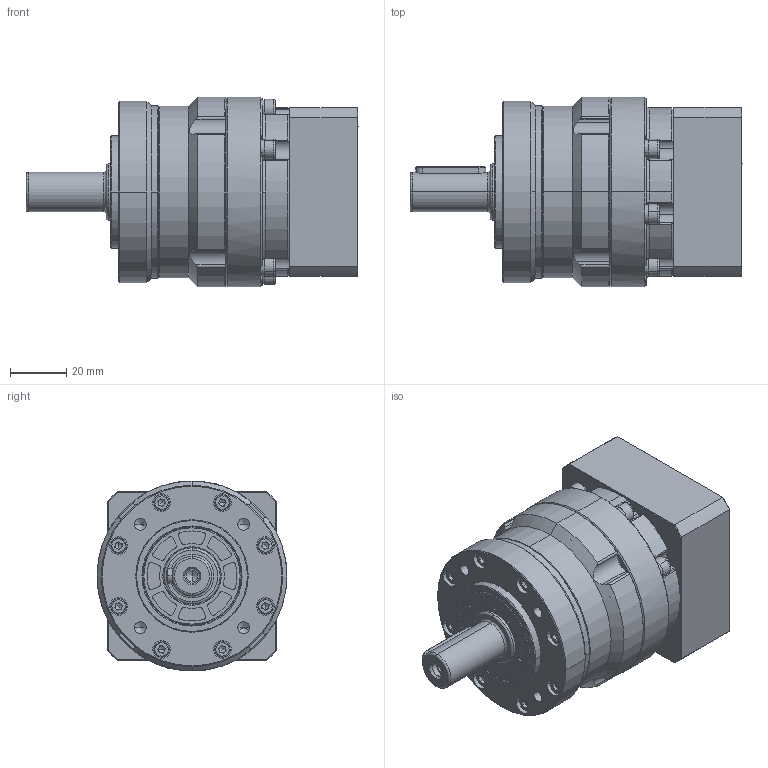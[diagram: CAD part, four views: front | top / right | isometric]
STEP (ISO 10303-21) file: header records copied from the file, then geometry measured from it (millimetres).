
FILE_DESCRIPTION (( 'STEP AP214' ), '1' );
FILE_NAME ('FE060-L1-S2-P2 14-50-70-M4.STEP', '2024-01-23T02:36:56', ( '微软用户' ), ( '微软中国' ), 'SwSTEP 2.0', 'SolidWorks 2018', '' );
FILE_SCHEMA (( 'AUTOMOTIVE_DESIGN' ));
Length unit declared in the file: millimetre
Products named in the file (16): hexagon socket head cap screws gb_GB_FASTENER_SCREWS_HSHCS M3X16-N; FE060一级齿圈外形图; hexagon socket head cap screws gb_GB_FASTENER_SCREWS_HSHCS M5X16-N; 萇儂楊擘FE060-D50-M5-70F60H24.5; FE060-L1-S2-P2 14-50-70-M4; spring lock washers--normal type gb_GB_FASTENER_WASHER_SW 3; hex socket set screws with flat point gb_GB_FASTENER_SCREWS_HSFP M10X8-N; FE060圆输出端盖外形图; 输入太阳轮FE060D14外形图; 一级输出轴FE060外形图; spring lock washers--normal type gb_GB_FASTENER_WASHER_SW 4; 蚐猾20X35X5; 標杶FE060D17; plain parallel keys_GB_CONNECTING_PIECE_KEYS_CSK 5X25; hexagon socket head cap screws gb_GB_FASTENER_SCREWS_HSHCS M4X20-N; FE060笢潔楊擘俋倛芞
Assembly tree (51 placements, depth 2):
  FE060-L1-S2-P2 14-50-70-M4
    FE060一级齿圈外形图
    一级输出轴FE060外形图
    输入太阳轮FE060D14外形图
    FE060笢潔楊擘俋倛芞
    萇儂楊擘FE060-D50-M5-70F60H24.5
    標杶FE060D17
    hexagon socket head cap screws gb_GB_FASTENER_SCREWS_HSHCS M5X16-N
    hexagon socket head cap screws gb_GB_FASTENER_SCREWS_HSHCS M4X20-N  x12
    spring lock washers--normal type gb_GB_FASTENER_WASHER_SW 4  x12
    hex socket set screws with flat point gb_GB_FASTENER_SCREWS_HSFP M10X8-N
    蚐猾20X35X5
    plain parallel keys_GB_CONNECTING_PIECE_KEYS_CSK 5X25
    hexagon socket head cap screws gb_GB_FASTENER_SCREWS_HSHCS M3X16-N  x8
    spring lock washers--normal type gb_GB_FASTENER_WASHER_SW 3  x8
    FE060圆输出端盖外形图
Bounding box: 118 x 67.5 x 67.5 mm (x, y, z)
Volume: 237236.4 mm3; surface area: 78487.8 mm2
Topology: 51 solids, 51 shells, 1469 faces, 3576 edges, 2213 vertices
Faces by surface type: plane 563, cylinder 544, cone 271, torus 79, bspline 12
Entity records: 36021 total; most frequent: CARTESIAN_POINT 5649, DIRECTION 4641, ORIENTED_EDGE 4096, EDGE_CURVE 2048, AXIS2_PLACEMENT_3D 1900, VERTEX_POINT 1309, CIRCLE 1019, EDGE_LOOP 961
